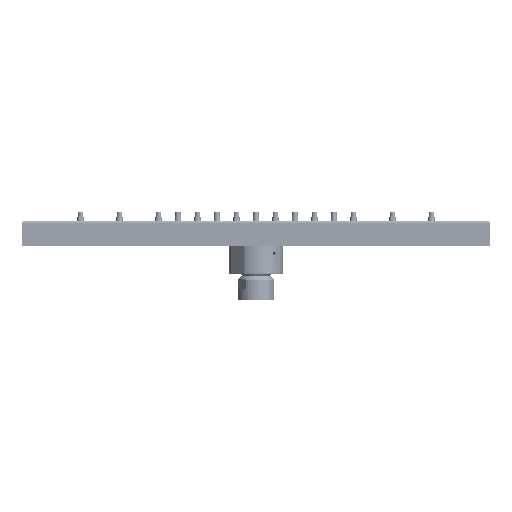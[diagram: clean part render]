
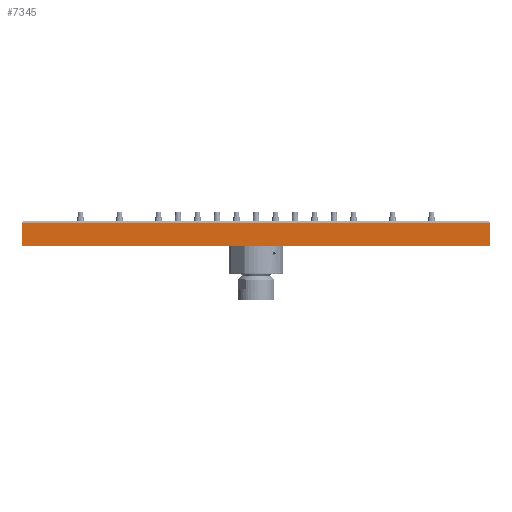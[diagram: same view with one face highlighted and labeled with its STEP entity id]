
A CAD part, left-side view. The second image highlights one B-rep face of the part: STEP entity #7345.
In plain terms, the highlighted planar face has unit normal (-1, 0, 0).
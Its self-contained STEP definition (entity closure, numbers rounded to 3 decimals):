
#2717=DIRECTION('',(0.,0.,1.));
#2718=VECTOR('',#2717,14.5);
#2719=CARTESIAN_POINT('',(-150.,150.,-16.));
#2720=LINE('',#2719,#2718);
#2737=DIRECTION('',(0.,0.,1.));
#2738=VECTOR('',#2737,14.5);
#2739=CARTESIAN_POINT('',(-150.,-150.,-16.));
#2740=LINE('',#2739,#2738);
#2741=DIRECTION('',(0.,-1.,0.));
#2742=VECTOR('',#2741,300.);
#2743=CARTESIAN_POINT('',(-150.,150.,-16.));
#2744=LINE('',#2743,#2742);
#2765=DIRECTION('',(0.,-1.,0.));
#2766=VECTOR('',#2765,300.);
#2767=CARTESIAN_POINT('',(-150.,150.,-1.5));
#2768=LINE('',#2767,#2766);
#2783=CARTESIAN_POINT('',(-150.,150.,-1.5));
#5394=CARTESIAN_POINT('',(-150.,150.,-16.));
#5396=VERTEX_POINT('',#5394);
#6029=CARTESIAN_POINT('',(-150.,-150.,-16.));
#6030=CARTESIAN_POINT('',(-150.,-150.,-1.5));
#6031=VERTEX_POINT('',#6029);
#6032=VERTEX_POINT('',#6030);
#6251=VERTEX_POINT('',#2783);
#7332=CARTESIAN_POINT('',(-150.,0.,0.));
#7333=DIRECTION('',(-1.,0.,0.));
#7334=DIRECTION('',(0.,0.,1.));
#7335=AXIS2_PLACEMENT_3D('',#7332,#7333,#7334);
#7336=PLANE('',#7335);
#7338=ORIENTED_EDGE('',*,*,#7337,.T.);
#7340=ORIENTED_EDGE('',*,*,#7339,.F.);
#7341=ORIENTED_EDGE('',*,*,#7323,.F.);
#7342=ORIENTED_EDGE('',*,*,#7297,.T.);
#7343=EDGE_LOOP('',(#7338,#7340,#7341,#7342));
#7344=FACE_OUTER_BOUND('',#7343,.F.);
#7297=EDGE_CURVE('',#5396,#6251,#2720,.T.);
#7323=EDGE_CURVE('',#5396,#6031,#2744,.T.);
#7337=EDGE_CURVE('',#6251,#6032,#2768,.T.);
#7339=EDGE_CURVE('',#6031,#6032,#2740,.T.);
#7345=ADVANCED_FACE('',(#7344),#7336,.T.);
